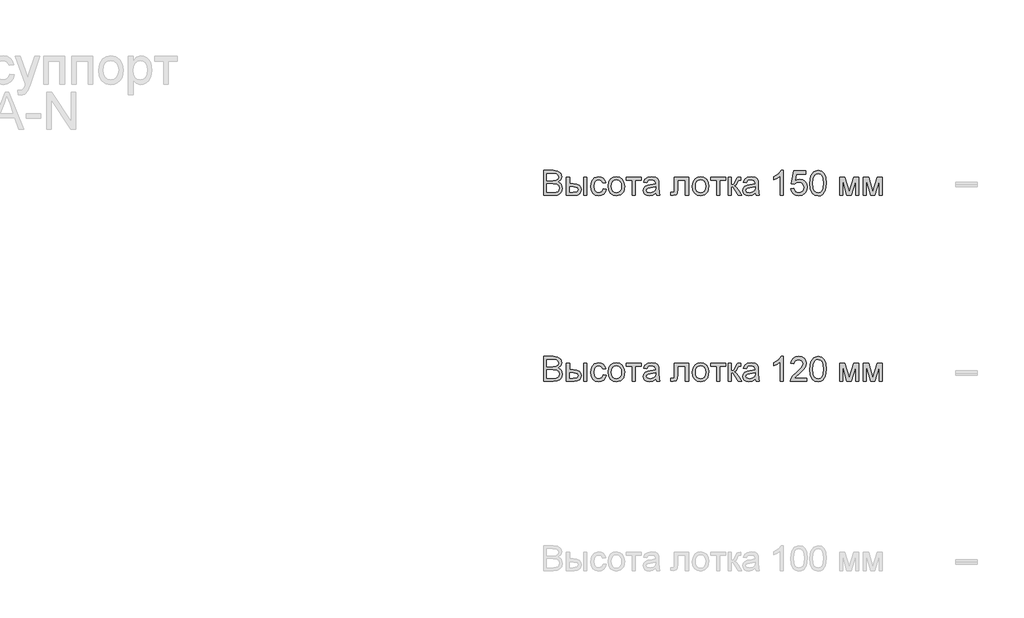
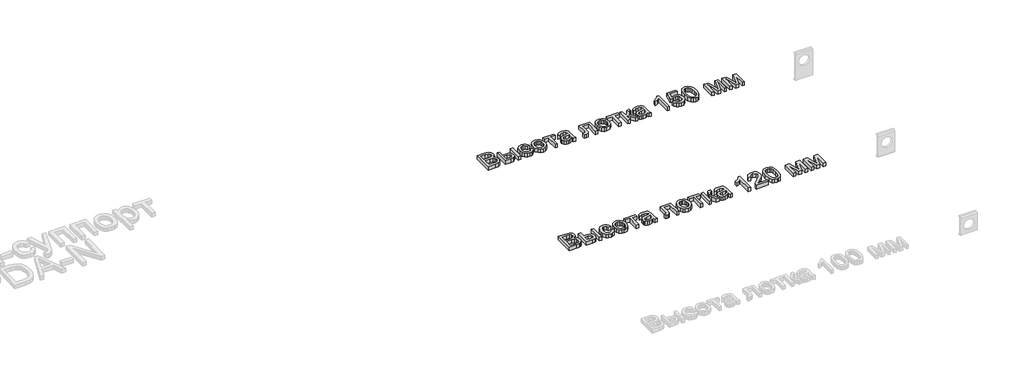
# One storey, part 4 of 28: 2 proxies.
"""IFC4 building model written with IfcOpenShell, lengths in millimetres."""

from ifc_helpers import new_model, si_unit, origin, origin_with_axes, place, context, project, spatial, polyline, outline, extrude, element, save

model = new_model("IFC4")

# Units and contexts
model_context = context("Model", 3, world=origin())
ifc_project = project(units=[si_unit("LENGTHUNIT", "METRE", prefix="MILLI")], contexts=[model_context])

# Site, building, storey
site = spatial("IfcSite", under=ifc_project)
building = spatial("IfcBuilding", under=site)
storey = spatial("IfcBuildingStorey", under=building, Name="Этаж 01", Elevation=0.0)

# Proxies
placement = place(None, origin())
element("IfcBuildingElementProxy", 1, Name="100 мм Arial", ObjectType="100 мм Arial", at=placement, inside=storey, context=model_context, shape_type="SweptSolid", body=[
    extrude(outline(polyline([(4139.0594517, -23200.395558), (4139.0594517, -23099.9392478), (4177.3927556, -23099.9392478), (4196.1670001, -23102.8945665), (4207.2525109, -23111.9812518), (4211.2624246, -23124.8325962), (4207.890173, -23136.5680318), (4197.6998417, -23145.4585134), (4210.0729395, -23154.8272415), (4214.4016843, -23170.4499636), (4211.4463656, -23183.9512328), (4204.1255139, -23193.5652156), (4193.1994187, -23198.6665126), (4177.09845, -23200.395558), (4139.0594517, -23200.395558)]), holes=[polyline([(4151.6164905, -23140.7496238), (4174.5478015, -23140.7496238), (4187.9387061, -23139.6705033), (4195.9953218, -23135.0229274), (4198.7053859, -23126.8436844), (4196.1792628, -23118.6521787), (4188.9442503, -23113.808399), (4172.8064934, -23112.4962866), (4151.6164905, -23112.4962866), (4151.6164905, -23140.7496238)]), polyline([(4151.6164905, -23187.8385192), (4177.3682301, -23187.8385192), (4186.6879074, -23187.3480099), (4194.5728448, -23184.6134204), (4199.7967691, -23179.0338768), (4201.8446456, -23170.5725909), (4199.4411499, -23160.8114553), (4191.6543143, -23154.986657), (4176.1419568, -23153.3066626), (4151.6164905, -23153.3066626), (4151.6164905, -23187.8385192)])]), origin_with_axes(), (0.0, 0.0, 1.0), 20.0),
    extrude(outline(polyline([(4299.161696, -23126.6229552), (4311.7187348, -23126.6229552), (4311.7187348, -23200.395558), (4299.161696, -23200.395558), (4299.161696, -23126.6229552)])), origin_with_axes(), (0.0, 0.0, 1.0), 20.0),
    extrude(outline(polyline([(4230.0979828, -23126.6229552), (4242.6550216, -23126.6229552), (4242.6550216, -23153.3066626), (4258.1796418, -23153.3066626), (4271.5981375, -23154.8793581), (4281.5401484, -23159.5974447), (4287.6929748, -23167.0807776), (4289.7439169, -23176.9492122), (4288.0240686, -23185.9347299), (4282.8645236, -23193.5161647), (4273.9280568, -23198.6757097), (4260.8774431, -23200.395558), (4230.0979828, -23200.395558), (4230.0979828, -23126.6229552)]), holes=[polyline([(4242.6550216, -23187.8385192), (4255.5554169, -23187.8385192), (4272.2082085, -23185.2020316), (4277.1868782, -23176.9737376), (4273.4957955, -23169.2482157), (4257.1986231, -23165.8637014), (4242.6550216, -23165.8637014), (4242.6550216, -23187.8385192)])]), origin_with_axes(), (0.0, 0.0, 1.0), 20.0),
    extrude(outline(polyline([(4377.6431883, -23173.7118506), (4390.2002271, -23175.2814804), (4386.6992168, -23186.4497647), (4380.1202604, -23194.8895908), (4371.0826261, -23200.1962886), (4360.2055817, -23201.9651878), (4346.8483996, -23199.4973128), (4336.4036167, -23192.0936876), (4329.6621791, -23180.0792748), (4327.4150332, -23163.7790367), (4331.2532687, -23142.9201276), (4342.9519162, -23129.5169602), (4360.0339035, -23125.0533254), (4370.6442334, -23126.586167), (4379.126979, -23131.184692), (4385.2123604, -23138.6036455), (4388.6305972, -23148.5977731), (4376.0735585, -23150.1674029), (4370.2487602, -23140.7618866), (4360.1320054, -23137.6103641), (4352.0171417, -23139.1615999), (4345.5761411, -23143.8153071), (4341.3730893, -23151.8228719), (4339.972072, -23163.4356802), (4341.3424324, -23175.2048384), (4345.4535137, -23183.2399943), (4351.7780184, -23187.8661104), (4359.7886488, -23189.4081491), (4371.6221863, -23185.5576508), (4377.6431883, -23173.7118506)])), origin_with_axes(), (0.0, 0.0, 1.0), 20.0),
    extrude(outline(polyline([(4398.0483763, -23163.5092566), (4400.7645717, -23145.7221621), (4408.9131579, -23133.2203057), (4418.9808618, -23127.0950704), (4431.0351286, -23125.0533254), (4444.2267638, -23127.5395945), (4454.7635172, -23134.998402), (4461.6705017, -23146.8411365), (4463.9728299, -23162.479187), (4459.9016024, -23184.8218868), (4448.0435395, -23197.4647648), (4431.0351286, -23201.9651878), (4417.6840778, -23199.4881157), (4407.1595871, -23192.0568994), (4400.326179, -23179.9658445), (4398.0483763, -23163.5092566)]), holes=[polyline([(4410.6054151, -23163.4847311), (4412.058549, -23174.8492191), (4416.4179506, -23182.9456887), (4422.9785129, -23187.792534), (4431.0351286, -23189.4081491), (4439.054956, -23187.7833369), (4445.6032556, -23182.9089005), (4449.9626572, -23174.705132), (4451.4157911, -23163.0923237), (4449.9534602, -23152.0589295), (4445.5664674, -23144.0728245), (4439.0089708, -23139.2259792), (4431.0351286, -23137.6103641), (4422.9785129, -23139.2198479), (4416.4179506, -23144.0482991), (4412.058549, -23152.1263745), (4410.6054151, -23163.4847311)])]), origin_with_axes(), (0.0, 0.0, 1.0), 20.0),
    extrude(outline(polyline([(4471.8209791, -23126.6229552), (4531.4669132, -23126.6229552), (4531.4669132, -23139.179994), (4507.9224655, -23139.179994), (4507.9224655, -23200.395558), (4495.3654268, -23200.395558), (4495.3654268, -23139.179994), (4471.8209791, -23139.179994), (4471.8209791, -23126.6229552)])), origin_with_axes(), (0.0, 0.0, 1.0), 20.0),
    extrude(outline(polyline([(4589.5432175, -23190.9777789), (4577.3663235, -23199.4881157), (4563.9141052, -23201.9651878), (4553.4202713, -23200.4752657), (4545.679421, -23196.0054995), (4540.9061521, -23189.2180767), (4539.3150625, -23180.7751849), (4541.7185582, -23170.842371), (4548.0338658, -23163.6318839), (4556.8262454, -23159.5116056), (4567.691027, -23157.6231447), (4589.4696411, -23153.3066626), (4589.5432175, -23150.5107594), (4586.0851268, -23141.2401332), (4572.2037128, -23137.6103641), (4559.4995213, -23140.0261226), (4553.4417311, -23148.5977731), (4540.8846923, -23147.0281432), (4546.3170831, -23134.76541), (4557.2554411, -23127.5794484), (4573.8223936, -23125.0533254), (4589.0404455, -23127.2851428), (4597.6366214, -23132.8892119), (4601.4871197, -23141.4118114), (4602.1002563, -23152.3992203), (4602.1002563, -23168.0219424), (4602.7379184, -23189.8373447), (4605.239516, -23200.395558), (4592.6824772, -23200.395558), (4589.5432175, -23190.9777789)]), holes=[polyline([(4589.5432175, -23165.8637014), (4569.2851823, -23169.7141996), (4558.4817144, -23171.7498133), (4553.5888839, -23175.0607512), (4551.8721012, -23179.8922681), (4555.6122349, -23186.6858223), (4566.587381, -23189.4081491), (4579.2915726, -23186.4037794), (4587.4830784, -23179.1319787), (4589.4696411, -23169.419894), (4589.5432175, -23165.8637014)])]), origin_with_axes(), (0.0, 0.0, 1.0), 20.0),
    extrude(outline(polyline([(4664.8854502, -23126.6229552), (4721.3921246, -23126.6229552), (4721.3921246, -23200.3219816), (4708.8350858, -23200.3219816), (4708.8350858, -23139.179994), (4677.4424889, -23139.179994), (4677.4424889, -23174.3740382), (4676.5963603, -23190.6098969), (4671.9487845, -23197.4647648), (4660.9613755, -23200.395558), (4650.7587815, -23199.7578959), (4650.7587815, -23187.8385192), (4656.3751133, -23187.8385192), (4662.0527588, -23187.065967), (4664.3213644, -23184.6134204), (4664.8854502, -23173.6627997), (4664.8854502, -23126.6229552)])), origin_with_axes(), (0.0, 0.0, 1.0), 20.0),
    extrude(outline(polyline([(4737.0884231, -23163.5092566), (4739.8046185, -23145.7221621), (4747.9532047, -23133.2203057), (4758.0209086, -23127.0950704), (4770.0751753, -23125.0533254), (4783.2668105, -23127.5395945), (4793.803564, -23134.998402), (4800.7105485, -23146.8411365), (4803.0128766, -23162.479187), (4798.9416492, -23184.8218868), (4787.0835862, -23197.4647648), (4770.0751753, -23201.9651878), (4756.7241246, -23199.4881157), (4746.1996338, -23192.0568994), (4739.3662258, -23179.9658445), (4737.0884231, -23163.5092566)]), holes=[polyline([(4749.6454618, -23163.4847311), (4751.0985957, -23174.8492191), (4755.4579974, -23182.9456887), (4762.0185596, -23187.792534), (4770.0751753, -23189.4081491), (4778.0950028, -23187.7833369), (4784.6433023, -23182.9089005), (4789.002704, -23174.705132), (4790.4558378, -23163.0923237), (4788.9935069, -23152.0589295), (4784.6065141, -23144.0728245), (4778.0490176, -23139.2259792), (4770.0751753, -23137.6103641), (4762.0185596, -23139.2198479), (4755.4579974, -23144.0482991), (4751.0985957, -23152.1263745), (4749.6454618, -23163.4847311)])]), origin_with_axes(), (0.0, 0.0, 1.0), 20.0),
    extrude(outline(polyline([(4810.8610258, -23126.6229552), (4870.50696, -23126.6229552), (4870.50696, -23139.179994), (4846.9625123, -23139.179994), (4846.9625123, -23200.395558), (4834.4054735, -23200.395558), (4834.4054735, -23139.179994), (4810.8610258, -23139.179994), (4810.8610258, -23126.6229552)])), origin_with_axes(), (0.0, 0.0, 1.0), 20.0),
    extrude(outline(polyline([(4881.4943689, -23126.6229552), (4894.0514077, -23126.6229552), (4894.0514077, -23158.0155521), (4902.4636426, -23155.7592092), (4909.3552987, -23142.6135593), (4915.0819951, -23131.2705311), (4920.1342411, -23127.5794484), (4929.3190283, -23126.6229552), (4931.722524, -23126.6229552), (4931.722524, -23139.2535704), (4928.3380096, -23139.179994), (4922.206643, -23140.5043692), (4917.890161, -23148.7694513), (4912.8256522, -23157.7089838), (4905.7255297, -23162.0867795), (4913.6472553, -23166.9734787), (4921.4218281, -23177.2680432), (4934.8617837, -23200.395558), (4920.5879623, -23200.395558), (4907.4177868, -23177.7585525), (4900.7959109, -23168.1813579), (4894.0514077, -23165.8637014), (4894.0514077, -23200.395558), (4881.4943689, -23200.395558), (4881.4943689, -23126.6229552)])), origin_with_axes(), (0.0, 0.0, 1.0), 20.0),
    extrude(outline(polyline([(4989.7988283, -23190.9777789), (4977.6219343, -23199.4881157), (4964.169716, -23201.9651878), (4953.6758821, -23200.4752657), (4945.9350317, -23196.0054995), (4941.1617628, -23189.2180767), (4939.5706732, -23180.7751849), (4941.9741689, -23170.842371), (4948.2894765, -23163.6318839), (4957.0818562, -23159.5116056), (4967.9466378, -23157.6231447), (4989.7252519, -23153.3066626), (4989.7988283, -23150.5107594), (4986.3407375, -23141.2401332), (4972.4593236, -23137.6103641), (4959.755132, -23140.0261226), (4953.6973418, -23148.5977731), (4941.1403031, -23147.0281432), (4946.5726939, -23134.76541), (4957.5110519, -23127.5794484), (4974.0780044, -23125.0533254), (4989.2960562, -23127.2851428), (4997.8922322, -23132.8892119), (5001.7427304, -23141.4118114), (5002.3558671, -23152.3992203), (5002.3558671, -23168.0219424), (5002.9935292, -23189.8373447), (5005.4951268, -23200.395558), (4992.938088, -23200.395558), (4989.7988283, -23190.9777789)]), holes=[polyline([(4989.7988283, -23165.8637014), (4969.5407931, -23169.7141996), (4958.7373252, -23171.7498133), (4953.8444946, -23175.0607512), (4952.127712, -23179.8922681), (4955.8678456, -23186.6858223), (4966.8429918, -23189.4081491), (4979.5471834, -23186.4037794), (4987.7386891, -23179.1319787), (4989.7252519, -23169.419894), (4989.7988283, -23165.8637014)])]), origin_with_axes(), (0.0, 0.0, 1.0), 20.0),
    extrude(outline(polyline([(5102.8121772, -23200.395558), (5090.2551384, -23200.395558), (5090.2551384, -23122.1102694), (5078.3602873, -23130.583818), (5065.1410609, -23136.9236511), (5065.1410609, -23125.0533254), (5083.5474234, -23113.305627), (5094.7187733, -23099.9392478), (5102.8121772, -23099.9392478), (5102.8121772, -23200.395558)])), origin_with_axes(), (0.0, 0.0, 1.0), 20.0),
    extrude(outline(polyline([(5196.989968, -23187.8385192), (5196.989968, -23200.395558), (5131.0655144, -23200.395558), (5132.4144151, -23191.7380684), (5140.0418351, -23178.4084774), (5155.7626591, -23163.8526131), (5177.4431713, -23142.9323903), (5182.8632994, -23128.7076199), (5177.7497396, -23117.1929134), (5164.3956232, -23112.4962866), (5150.4774211, -23117.0825488), (5145.1921831, -23129.7622149), (5132.6351443, -23128.1925851), (5135.6793678, -23116.0463479), (5142.2613898, -23107.1742604), (5152.0378539, -23101.748001), (5164.6654033, -23099.9392478), (5177.3849233, -23101.9503361), (5187.1429932, -23107.9836008), (5193.3510019, -23116.9967097), (5195.4203381, -23127.9473304), (5193.1885207, -23139.8544443), (5185.7695671, -23152.1662284), (5167.7801376, -23169.3708431), (5153.3346379, -23181.4496352), (5147.6692552, -23187.8385192), (5196.989968, -23187.8385192)])), origin_with_axes(), (0.0, 0.0, 1.0), 20.0),
    extrude(outline(polyline([(5209.5470067, -23150.9767433), (5213.2380894, -23122.0734812), (5224.2009729, -23105.4084268), (5242.5092335, -23099.9392478), (5257.1754624, -23103.1766094), (5267.30448, -23112.5085493), (5273.1905919, -23127.3709819), (5275.4714603, -23150.9767433), (5271.8171658, -23179.757378), (5260.8910705, -23196.4592206), (5252.6597109, -23200.588696), (5242.5092335, -23201.9651878), (5229.4616854, -23199.5739549), (5219.553397, -23192.400256), (5212.0486043, -23175.4102391), (5209.5470067, -23150.9767433)]), holes=[polyline([(5222.1040455, -23150.9522178), (5223.5755735, -23170.7044153), (5227.9901574, -23182.1363483), (5234.5629824, -23187.5901989), (5242.5092335, -23189.4081491), (5250.4554846, -23187.5840675), (5257.0283096, -23182.1118228), (5261.4428935, -23170.6737585), (5262.9144215, -23150.9522178), (5261.4919445, -23131.6445444), (5257.2245133, -23120.1237066), (5250.6639511, -23114.4031416), (5242.3620807, -23112.4962866), (5234.5016688, -23114.176281), (5228.1863612, -23119.2162644), (5223.6246244, -23131.4544721), (5222.1040455, -23150.9522178)])]), origin_with_axes(), (0.0, 0.0, 1.0), 20.0),
    extrude(outline(polyline([(5328.8388751, -23126.6229552), (5350.4458109, -23126.6229552), (5367.0986025, -23185.6802782), (5385.0512439, -23126.6229552), (5405.7507375, -23126.6229552), (5405.7507375, -23200.395558), (5393.1936987, -23200.395558), (5393.1936987, -23140.9948785), (5375.1429555, -23200.395558), (5358.6618421, -23200.395558), (5341.3959138, -23138.1499244), (5341.3959138, -23200.395558), (5328.8388751, -23200.395558), (5328.8388751, -23126.6229552)])), origin_with_axes(), (0.0, 0.0, 1.0), 20.0),
    extrude(outline(polyline([(5424.5862957, -23126.6229552), (5446.1932315, -23126.6229552), (5462.8460232, -23185.6802782), (5480.7986645, -23126.6229552), (5501.4981581, -23126.6229552), (5501.4981581, -23200.395558), (5488.9411194, -23200.395558), (5488.9411194, -23140.9948785), (5470.8903761, -23200.395558), (5454.4092627, -23200.395558), (5437.1433344, -23138.1499244), (5437.1433344, -23200.395558), (5424.5862957, -23200.395558), (5424.5862957, -23126.6229552)])), origin_with_axes(), (0.0, 0.0, 1.0), 20.0),
])
element("IfcBuildingElementProxy", 2, Name="100 мм Arial", ObjectType="100 мм Arial", at=placement, inside=storey, context=model_context, shape_type="SweptSolid", body=[
    extrude(outline(polyline([(4139.0594517, -22452.4588736), (4139.0594517, -22352.0025635), (4177.3927556, -22352.0025635), (4196.1670001, -22354.9578822), (4207.2525109, -22364.0445675), (4211.2624246, -22376.8959118), (4207.890173, -22388.6313475), (4197.6998417, -22397.521829), (4210.0729395, -22406.8905572), (4214.4016843, -22422.5132792), (4211.4463656, -22436.0145485), (4204.1255139, -22445.6285313), (4193.1994187, -22450.7298283), (4177.09845, -22452.4588736), (4139.0594517, -22452.4588736)]), holes=[polyline([(4151.6164905, -22392.8129395), (4174.5478015, -22392.8129395), (4187.9387061, -22391.733819), (4195.9953218, -22387.0862431), (4198.7053859, -22378.9070001), (4196.1792628, -22370.7154943), (4188.9442503, -22365.8717147), (4172.8064934, -22364.5596023), (4151.6164905, -22364.5596023), (4151.6164905, -22392.8129395)]), polyline([(4151.6164905, -22439.9018349), (4177.3682301, -22439.9018349), (4186.6879074, -22439.4113256), (4194.5728448, -22436.6767361), (4199.7967691, -22431.0971925), (4201.8446456, -22422.6359066), (4199.4411499, -22412.874771), (4191.6543143, -22407.0499727), (4176.1419568, -22405.3699783), (4151.6164905, -22405.3699783), (4151.6164905, -22439.9018349)])]), origin_with_axes(), (0.0, 0.0, 1.0), 20.0),
    extrude(outline(polyline([(4299.161696, -22378.6862709), (4311.7187348, -22378.6862709), (4311.7187348, -22452.4588736), (4299.161696, -22452.4588736), (4299.161696, -22378.6862709)])), origin_with_axes(), (0.0, 0.0, 1.0), 20.0),
    extrude(outline(polyline([(4230.0979828, -22378.6862709), (4242.6550216, -22378.6862709), (4242.6550216, -22405.3699783), (4258.1796418, -22405.3699783), (4271.5981375, -22406.9426738), (4281.5401484, -22411.6607604), (4287.6929748, -22419.1440933), (4289.7439169, -22429.0125278), (4288.0240686, -22437.9980456), (4282.8645236, -22445.5794803), (4273.9280568, -22450.7390253), (4260.8774431, -22452.4588736), (4230.0979828, -22452.4588736), (4230.0979828, -22378.6862709)]), holes=[polyline([(4242.6550216, -22439.9018349), (4255.5554169, -22439.9018349), (4272.2082085, -22437.2653472), (4277.1868782, -22429.0370533), (4273.4957955, -22421.3115314), (4257.1986231, -22417.927017), (4242.6550216, -22417.927017), (4242.6550216, -22439.9018349)])]), origin_with_axes(), (0.0, 0.0, 1.0), 20.0),
    extrude(outline(polyline([(4377.6431883, -22425.7751663), (4390.2002271, -22427.3447961), (4386.6992168, -22438.5130803), (4380.1202604, -22446.9529065), (4371.0826261, -22452.2596042), (4360.2055817, -22454.0285035), (4346.8483996, -22451.5606284), (4336.4036167, -22444.1570033), (4329.6621791, -22432.1425905), (4327.4150332, -22415.8423524), (4331.2532687, -22394.9834433), (4342.9519162, -22381.5802759), (4360.0339035, -22377.116641), (4370.6442334, -22378.6494827), (4379.126979, -22383.2480076), (4385.2123604, -22390.6669612), (4388.6305972, -22400.6610887), (4376.0735585, -22402.2307186), (4370.2487602, -22392.8252022), (4360.1320054, -22389.6736798), (4352.0171417, -22391.2249156), (4345.5761411, -22395.8786228), (4341.3730893, -22403.8861876), (4339.972072, -22415.4989959), (4341.3424324, -22427.268154), (4345.4535137, -22435.3033099), (4351.7780184, -22439.929426), (4359.7886488, -22441.4714647), (4371.6221863, -22437.6209665), (4377.6431883, -22425.7751663)])), origin_with_axes(), (0.0, 0.0, 1.0), 20.0),
    extrude(outline(polyline([(4398.0483763, -22415.5725723), (4400.7645717, -22397.7854778), (4408.9131579, -22385.2836213), (4418.9808618, -22379.1583861), (4431.0351286, -22377.116641), (4444.2267638, -22379.6029102), (4454.7635172, -22387.0617176), (4461.6705017, -22398.9044522), (4463.9728299, -22414.5425027), (4459.9016024, -22436.8852025), (4448.0435395, -22449.5280804), (4431.0351286, -22454.0285035), (4417.6840778, -22451.5514314), (4407.1595871, -22444.1202151), (4400.326179, -22432.0291602), (4398.0483763, -22415.5725723)]), holes=[polyline([(4410.6054151, -22415.5480468), (4412.058549, -22426.9125348), (4416.4179506, -22435.0090043), (4422.9785129, -22439.8558496), (4431.0351286, -22441.4714647), (4439.054956, -22439.8466526), (4445.6032556, -22434.9722161), (4449.9626572, -22426.7684477), (4451.4157911, -22415.1556393), (4449.9534602, -22404.1222452), (4445.5664674, -22396.1361402), (4439.0089708, -22391.2892949), (4431.0351286, -22389.6736798), (4422.9785129, -22391.2831635), (4416.4179506, -22396.1116147), (4412.058549, -22404.1896902), (4410.6054151, -22415.5480468)])]), origin_with_axes(), (0.0, 0.0, 1.0), 20.0),
    extrude(outline(polyline([(4471.8209791, -22378.6862709), (4531.4669132, -22378.6862709), (4531.4669132, -22391.2433097), (4507.9224655, -22391.2433097), (4507.9224655, -22452.4588736), (4495.3654268, -22452.4588736), (4495.3654268, -22391.2433097), (4471.8209791, -22391.2433097), (4471.8209791, -22378.6862709)])), origin_with_axes(), (0.0, 0.0, 1.0), 20.0),
    extrude(outline(polyline([(4589.5432175, -22443.0410946), (4577.3663235, -22451.5514314), (4563.9141052, -22454.0285035), (4553.4202713, -22452.5385814), (4545.679421, -22448.0688152), (4540.9061521, -22441.2813924), (4539.3150625, -22432.8385006), (4541.7185582, -22422.9056867), (4548.0338658, -22415.6951996), (4556.8262454, -22411.5749213), (4567.691027, -22409.6864603), (4589.4696411, -22405.3699783), (4589.5432175, -22402.5740751), (4586.0851268, -22393.3034488), (4572.2037128, -22389.6736798), (4559.4995213, -22392.0894382), (4553.4417311, -22400.6610887), (4540.8846923, -22399.0914589), (4546.3170831, -22386.8287257), (4557.2554411, -22379.6427641), (4573.8223936, -22377.116641), (4589.0404455, -22379.3484585), (4597.6366214, -22384.9525275), (4601.4871197, -22393.4751271), (4602.1002563, -22404.462536), (4602.1002563, -22420.0852581), (4602.7379184, -22441.9006604), (4605.239516, -22452.4588736), (4592.6824772, -22452.4588736), (4589.5432175, -22443.0410946)]), holes=[polyline([(4589.5432175, -22417.927017), (4569.2851823, -22421.7775152), (4558.4817144, -22423.813129), (4553.5888839, -22427.1240669), (4551.8721012, -22431.9555838), (4555.6122349, -22438.749138), (4566.587381, -22441.4714647), (4579.2915726, -22438.4670951), (4587.4830784, -22431.1952943), (4589.4696411, -22421.4832097), (4589.5432175, -22417.927017)])]), origin_with_axes(), (0.0, 0.0, 1.0), 20.0),
    extrude(outline(polyline([(4664.8854502, -22378.6862709), (4721.3921246, -22378.6862709), (4721.3921246, -22452.3852972), (4708.8350858, -22452.3852972), (4708.8350858, -22391.2433097), (4677.4424889, -22391.2433097), (4677.4424889, -22426.4373539), (4676.5963603, -22442.6732126), (4671.9487845, -22449.5280804), (4660.9613755, -22452.4588736), (4650.7587815, -22451.8212115), (4650.7587815, -22439.9018349), (4656.3751133, -22439.9018349), (4662.0527588, -22439.1292827), (4664.3213644, -22436.6767361), (4664.8854502, -22425.7261153), (4664.8854502, -22378.6862709)])), origin_with_axes(), (0.0, 0.0, 1.0), 20.0),
    extrude(outline(polyline([(4737.0884231, -22415.5725723), (4739.8046185, -22397.7854778), (4747.9532047, -22385.2836213), (4758.0209086, -22379.1583861), (4770.0751753, -22377.116641), (4783.2668105, -22379.6029102), (4793.803564, -22387.0617176), (4800.7105485, -22398.9044522), (4803.0128766, -22414.5425027), (4798.9416492, -22436.8852025), (4787.0835862, -22449.5280804), (4770.0751753, -22454.0285035), (4756.7241246, -22451.5514314), (4746.1996338, -22444.1202151), (4739.3662258, -22432.0291602), (4737.0884231, -22415.5725723)]), holes=[polyline([(4749.6454618, -22415.5480468), (4751.0985957, -22426.9125348), (4755.4579974, -22435.0090043), (4762.0185596, -22439.8558496), (4770.0751753, -22441.4714647), (4778.0950028, -22439.8466526), (4784.6433023, -22434.9722161), (4789.002704, -22426.7684477), (4790.4558378, -22415.1556393), (4788.9935069, -22404.1222452), (4784.6065141, -22396.1361402), (4778.0490176, -22391.2892949), (4770.0751753, -22389.6736798), (4762.0185596, -22391.2831635), (4755.4579974, -22396.1116147), (4751.0985957, -22404.1896902), (4749.6454618, -22415.5480468)])]), origin_with_axes(), (0.0, 0.0, 1.0), 20.0),
    extrude(outline(polyline([(4810.8610258, -22378.6862709), (4870.50696, -22378.6862709), (4870.50696, -22391.2433097), (4846.9625123, -22391.2433097), (4846.9625123, -22452.4588736), (4834.4054735, -22452.4588736), (4834.4054735, -22391.2433097), (4810.8610258, -22391.2433097), (4810.8610258, -22378.6862709)])), origin_with_axes(), (0.0, 0.0, 1.0), 20.0),
    extrude(outline(polyline([(4881.4943689, -22378.6862709), (4894.0514077, -22378.6862709), (4894.0514077, -22410.0788678), (4902.4636426, -22407.8225249), (4909.3552987, -22394.6768749), (4915.0819951, -22383.3338468), (4920.1342411, -22379.6427641), (4929.3190283, -22378.6862709), (4931.722524, -22378.6862709), (4931.722524, -22391.316886), (4928.3380096, -22391.2433097), (4922.206643, -22392.5676848), (4917.890161, -22400.832767), (4912.8256522, -22409.7722995), (4905.7255297, -22414.1500952), (4913.6472553, -22419.0367944), (4921.4218281, -22429.3313589), (4934.8617837, -22452.4588736), (4920.5879623, -22452.4588736), (4907.4177868, -22429.8218682), (4900.7959109, -22420.2446736), (4894.0514077, -22417.927017), (4894.0514077, -22452.4588736), (4881.4943689, -22452.4588736), (4881.4943689, -22378.6862709)])), origin_with_axes(), (0.0, 0.0, 1.0), 20.0),
    extrude(outline(polyline([(4989.7988283, -22443.0410946), (4977.6219343, -22451.5514314), (4964.169716, -22454.0285035), (4953.6758821, -22452.5385814), (4945.9350317, -22448.0688152), (4941.1617628, -22441.2813924), (4939.5706732, -22432.8385006), (4941.9741689, -22422.9056867), (4948.2894765, -22415.6951996), (4957.0818562, -22411.5749213), (4967.9466378, -22409.6864603), (4989.7252519, -22405.3699783), (4989.7988283, -22402.5740751), (4986.3407375, -22393.3034488), (4972.4593236, -22389.6736798), (4959.755132, -22392.0894382), (4953.6973418, -22400.6610887), (4941.1403031, -22399.0914589), (4946.5726939, -22386.8287257), (4957.5110519, -22379.6427641), (4974.0780044, -22377.116641), (4989.2960562, -22379.3484585), (4997.8922322, -22384.9525275), (5001.7427304, -22393.4751271), (5002.3558671, -22404.462536), (5002.3558671, -22420.0852581), (5002.9935292, -22441.9006604), (5005.4951268, -22452.4588736), (4992.938088, -22452.4588736), (4989.7988283, -22443.0410946)]), holes=[polyline([(4989.7988283, -22417.927017), (4969.5407931, -22421.7775152), (4958.7373252, -22423.813129), (4953.8444946, -22427.1240669), (4952.127712, -22431.9555838), (4955.8678456, -22438.749138), (4966.8429918, -22441.4714647), (4979.5471834, -22438.4670951), (4987.7386891, -22431.1952943), (4989.7252519, -22421.4832097), (4989.7988283, -22417.927017)])]), origin_with_axes(), (0.0, 0.0, 1.0), 20.0),
    extrude(outline(polyline([(5102.8121772, -22452.4588736), (5090.2551384, -22452.4588736), (5090.2551384, -22374.1735851), (5078.3602873, -22382.6471337), (5065.1410609, -22388.9869667), (5065.1410609, -22377.116641), (5083.5474234, -22365.3689427), (5094.7187733, -22352.0025635), (5102.8121772, -22352.0025635), (5102.8121772, -22452.4588736)])), origin_with_axes(), (0.0, 0.0, 1.0), 20.0),
    extrude(outline(polyline([(5132.6351443, -22425.7751663), (5145.1921831, -22424.2055364), (5151.5197534, -22437.1427199), (5164.6408779, -22441.4714647), (5173.641724, -22439.9662142), (5180.3862273, -22435.4504627), (5184.5984761, -22428.4453764), (5186.0025591, -22419.4721214), (5180.7418465, -22404.5606379), (5174.135299, -22400.4587536), (5164.8370816, -22399.0914589), (5153.8128845, -22401.2742254), (5146.7618129, -22406.9396081), (5134.2047741, -22405.3699783), (5145.1921831, -22353.5721933), (5193.8507083, -22353.5721933), (5193.8507083, -22366.1292321), (5155.3457261, -22366.1292321), (5149.974649, -22393.7939581), (5158.9448383, -22388.3493046), (5168.3442233, -22386.5344201), (5180.0765933, -22388.7846316), (5189.8162691, -22395.5352663), (5196.3737656, -22405.8236994), (5198.5595978, -22418.6873065), (5196.5914292, -22431.2443453), (5190.6869231, -22441.9864995), (5179.3806831, -22451.0180025), (5164.5918269, -22454.0285035), (5152.258583, -22452.0940573), (5142.4330681, -22446.2907189), (5135.6977619, -22437.2929384), (5132.6351443, -22425.7751663)])), origin_with_axes(), (0.0, 0.0, 1.0), 20.0),
    extrude(outline(polyline([(5209.5470067, -22403.040059), (5213.2380894, -22374.1367969), (5224.2009729, -22357.4717425), (5242.5092335, -22352.0025635), (5257.1754624, -22355.2399251), (5267.30448, -22364.571865), (5273.1905919, -22379.4342976), (5275.4714603, -22403.040059), (5271.8171658, -22431.8206937), (5260.8910705, -22448.5225363), (5252.6597109, -22452.6520117), (5242.5092335, -22454.0285035), (5229.4616854, -22451.6372705), (5219.553397, -22444.4635716), (5212.0486043, -22427.4735548), (5209.5470067, -22403.040059)]), holes=[polyline([(5222.1040455, -22403.0155335), (5223.5755735, -22422.767731), (5227.9901574, -22434.199664), (5234.5629824, -22439.6535145), (5242.5092335, -22441.4714647), (5250.4554846, -22439.6473832), (5257.0283096, -22434.1751385), (5261.4428935, -22422.7370741), (5262.9144215, -22403.0155335), (5261.4919445, -22383.7078601), (5257.2245133, -22372.1870223), (5250.6639511, -22366.4664573), (5242.3620807, -22364.5596023), (5234.5016688, -22366.2395967), (5228.1863612, -22371.27958), (5223.6246244, -22383.5177878), (5222.1040455, -22403.0155335)])]), origin_with_axes(), (0.0, 0.0, 1.0), 20.0),
    extrude(outline(polyline([(5328.8388751, -22378.6862709), (5350.4458109, -22378.6862709), (5367.0986025, -22437.7435938), (5385.0512439, -22378.6862709), (5405.7507375, -22378.6862709), (5405.7507375, -22452.4588736), (5393.1936987, -22452.4588736), (5393.1936987, -22393.0581942), (5375.1429555, -22452.4588736), (5358.6618421, -22452.4588736), (5341.3959138, -22390.2132401), (5341.3959138, -22452.4588736), (5328.8388751, -22452.4588736), (5328.8388751, -22378.6862709)])), origin_with_axes(), (0.0, 0.0, 1.0), 20.0),
    extrude(outline(polyline([(5424.5862957, -22378.6862709), (5446.1932315, -22378.6862709), (5462.8460232, -22437.7435938), (5480.7986645, -22378.6862709), (5501.4981581, -22378.6862709), (5501.4981581, -22452.4588736), (5488.9411194, -22452.4588736), (5488.9411194, -22393.0581942), (5470.8903761, -22452.4588736), (5454.4092627, -22452.4588736), (5437.1433344, -22390.2132401), (5437.1433344, -22452.4588736), (5424.5862957, -22452.4588736), (5424.5862957, -22378.6862709)])), origin_with_axes(), (0.0, 0.0, 1.0), 20.0),
])

save(model, "model.ifc")
